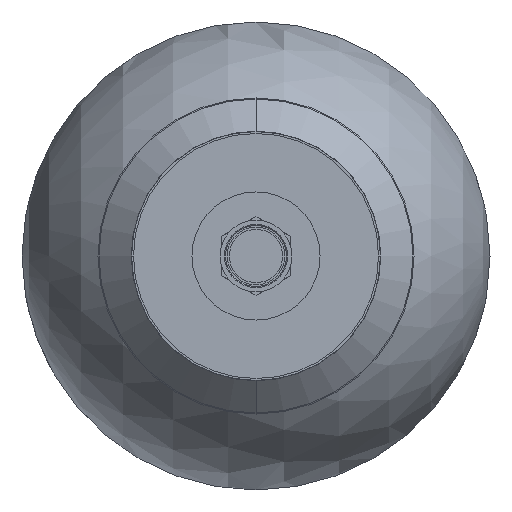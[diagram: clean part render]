
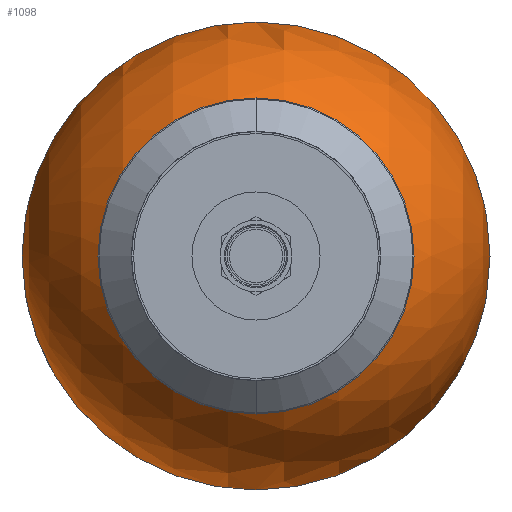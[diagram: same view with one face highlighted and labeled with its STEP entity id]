
A CAD part, front view. The second image highlights one B-rep face of the part: STEP entity #1098.
In plain terms, the highlighted spherical face has radius 109.55 mm.
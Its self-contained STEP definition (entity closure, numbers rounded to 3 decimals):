
#573=CARTESIAN_POINT('',(-140.659,63.5,0.0));
#574=VERTEX_POINT('',#573);
#589=CARTESIAN_POINT('',(-140.659,-155.6,0.));
#590=VERTEX_POINT('',#589);
#597=CARTESIAN_POINT('',(-140.659,-46.05,0.0));
#598=DIRECTION('',(1.0,0.0,0.0));
#599=DIRECTION('',(0.0,1.0,0.0));
#600=AXIS2_PLACEMENT_3D('',#597,#598,#599);
#601=CIRCLE('',#600,109.55);
#602=EDGE_CURVE('',#590,#574,#601,.T.);
#932=CARTESIAN_POINT('',(-140.659,-46.05,0.0));
#933=DIRECTION('',(1.0,0.0,0.0));
#934=DIRECTION('',(0.0,1.0,0.0));
#935=AXIS2_PLACEMENT_3D('',#932,#933,#934);
#936=CIRCLE('',#935,109.55);
#937=EDGE_CURVE('',#574,#590,#936,.T.);
#1070=CARTESIAN_POINT('',(-246.021,-16.05,0.0));
#1071=VERTEX_POINT('',#1070);
#1072=CARTESIAN_POINT('',(-246.021,-46.05,0.0));
#1073=DIRECTION('',(1.0,0.0,0.0));
#1074=DIRECTION('',(0.0,1.0,0.0));
#1075=AXIS2_PLACEMENT_3D('',#1072,#1073,#1074);
#1076=CIRCLE('',#1075,30.0);
#1077=EDGE_CURVE('',#1071,#1071,#1076,.T.);
#1086=CARTESIAN_POINT('',(-140.659,-46.05,0.0));
#1087=DIRECTION('',(0.0,0.0,1.0));
#1088=DIRECTION('',(1.0,0.0,0.0));
#1089=AXIS2_PLACEMENT_3D('',#1086,#1087,#1088);
#1090=SPHERICAL_SURFACE('',#1089,109.55);
#1091=ORIENTED_EDGE('',*,*,#937,.F.);
#1092=ORIENTED_EDGE('',*,*,#602,.F.);
#1093=EDGE_LOOP('',(#1091,#1092));
#1094=FACE_OUTER_BOUND('',#1093,.T.);
#1095=ORIENTED_EDGE('',*,*,#1077,.T.);
#1096=EDGE_LOOP('',(#1095));
#1097=FACE_BOUND('',#1096,.T.);
#1098=ADVANCED_FACE('',(#1094,#1097),#1090,.T.);
